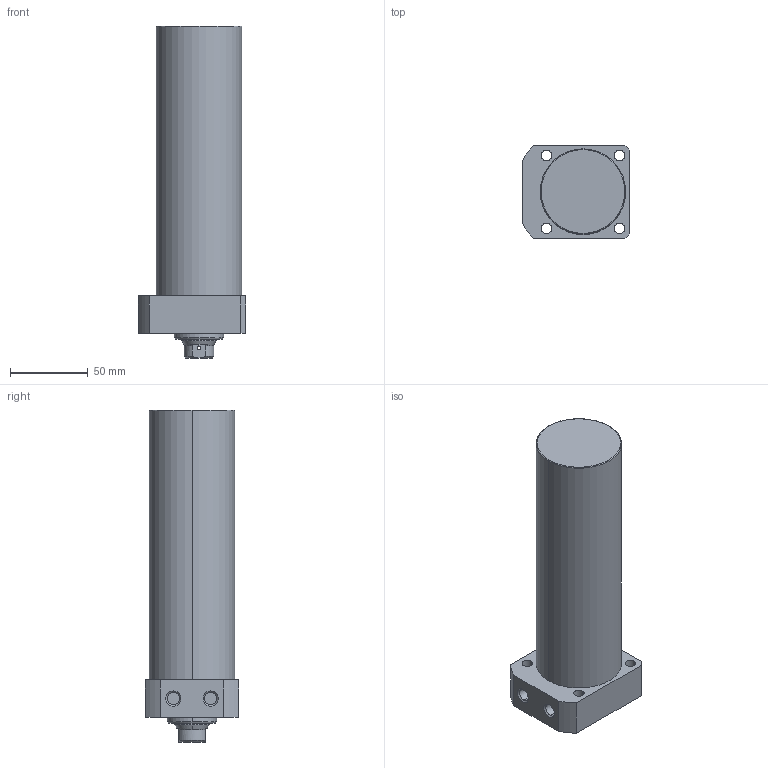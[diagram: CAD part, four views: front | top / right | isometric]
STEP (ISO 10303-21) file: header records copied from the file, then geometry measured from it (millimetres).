
FILE_DESCRIPTION (( 'STEP AP203' ), '1' );
FILE_NAME ('CLLR-055CB-145.STEP', '2019-12-17T12:04:24', ( '' ), ( '' ), 'SwSTEP 2.0', 'SolidWorks 2015', '' );
FILE_SCHEMA (( 'CONFIG_CONTROL_DESIGN' ));
Length unit declared in the file: millimetre
Products named in the file (1): CLLR-055CB-145
Bounding box: 69 x 60 x 214 mm (x, y, z)
Volume: 510979.6 mm3; surface area: 48400.5 mm2
Topology: 1 solids, 1 shells, 69 faces, 162 edges, 101 vertices
Faces by surface type: cylinder 33, plane 19, cone 15, torus 2
Entity records: 2175 total; most frequent: CARTESIAN_POINT 451, DIRECTION 368, ORIENTED_EDGE 320, EDGE_CURVE 160, AXIS2_PLACEMENT_3D 150, VERTEX_POINT 101, EDGE_LOOP 89, CIRCLE 80
